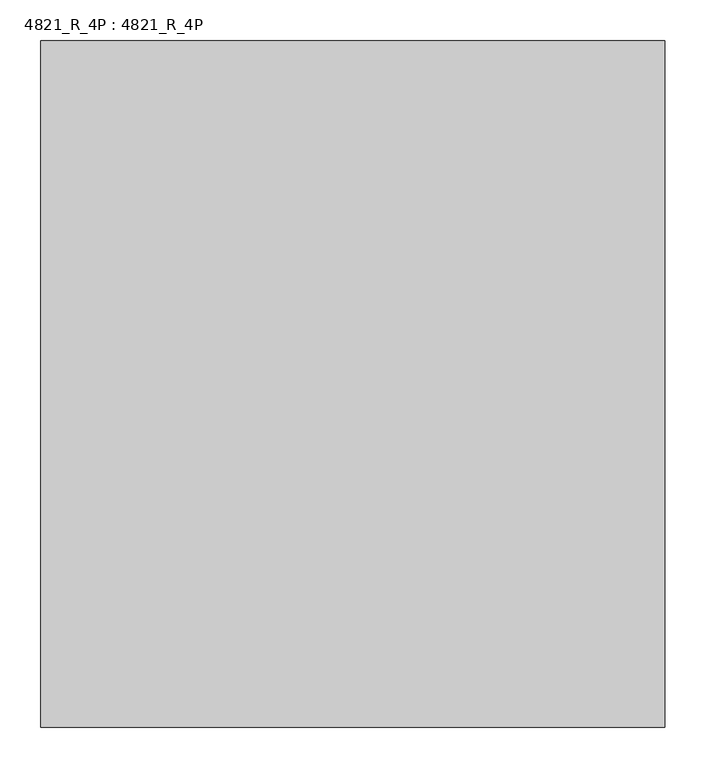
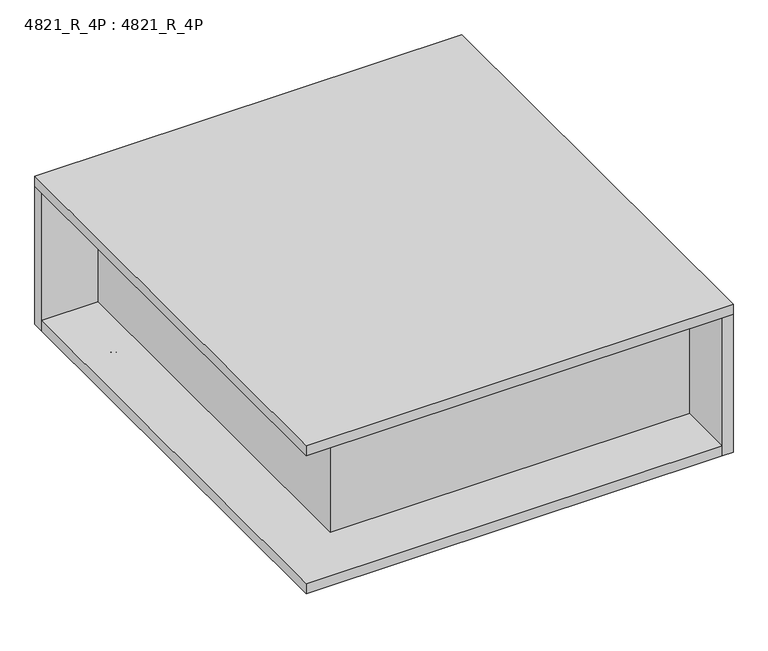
"""IFC4 building model written with IfcOpenShell, lengths in millimetres: furniture geometry, 4821_R_4P : 4821_R_4P."""

from ifc_helpers import new_model, si_unit, point, frame, frame_2d, origin, place, context, project, spatial, polyline, circle_curve, ellipse_curve, trimmed, segment, composite_curve, outline, extrude, source, transform, mapped, element, save
from ifc_brep_helpers import plane_surface, cylinder_surface, revolved_surface, advanced_brep


def furniture_4821_r_4p_4821_r_4p_70f06d25(model_context):
    return source(origin(), model_context, "Body", "SolidModel", [
        extrude(outline(composite_curve([segment(trimmed(circle_curve(frame_2d((-155.575, -136.525)), 1.905), [point((-155.575, -138.43))], [point((-157.48, -136.525))], False, "CARTESIAN"), True, "CONTINUOUS"), segment(polyline([(-157.48, -136.525), (-157.48, -41.275)]), True, "CONTINUOUS"), segment(trimmed(circle_curve(frame_2d((-155.575, -41.275)), 1.905), [point((-157.48, -41.275))], [point((-155.575, -39.37))], False, "CARTESIAN"), True, "CONTINUOUS"), segment(polyline([(-155.575, -39.37), (-60.325, -39.37)]), True, "CONTINUOUS"), segment(trimmed(circle_curve(frame_2d((-60.325, -41.275)), 1.905), [point((-60.325, -39.37))], [point((-58.42, -41.275))], False, "CARTESIAN"), True, "CONTINUOUS"), segment(polyline([(-58.42, -41.275), (-58.42, -136.525)]), True, "CONTINUOUS"), segment(trimmed(circle_curve(frame_2d((-60.325, -136.525)), 1.905), [point((-58.42, -136.525))], [point((-60.325, -138.43))], False, "CARTESIAN"), True, "CONTINUOUS"), segment(polyline([(-60.325, -138.43), (-155.575, -138.43)]), True, "CONTINUOUS")], self_intersect=False)), frame((0.0, 0.0, 9.8425), z_axis=(0.0, 0.0, 1.0), x_axis=(1.0, 0.0, 0.0)), (0.0, 0.0, 1.0), 1.27),
        advanced_brep(
        [(-118.1021334, -88.9, 0.0), (-97.7978666, -88.9, 0.0), (-107.95, -88.9, 0.0), (-118.4275, -88.9, 5.08), (-97.4725, -88.9, 5.08), (-118.4275, -88.9, 9.0481974), (-97.4725, -88.9, 9.0481974), (-117.6331974, -88.9, 9.8425), (-98.2668026, -88.9, 9.8425), (-107.95, -88.9, 9.8425)],
        [
            (0, 1, circle_curve(frame((-107.95, -88.9, 0.0), z_axis=(0.0, 0.0, -1.0), x_axis=(1.0, 0.0, 0.0)), 10.1521334)),
            (1, 2),
            (2, 0),
            (1, 0, circle_curve(frame((-107.95, -88.9, 0.0), z_axis=(0.0, 0.0, -1.0), x_axis=(1.0, 0.0, 0.0)), 10.1521334)),
            (3, 4, circle_curve(frame((-107.95, -88.9, 5.08), z_axis=(0.0, 0.0, -1.0), x_axis=(1.0, 0.0, 0.0)), 10.4775)),
            (4, 1, circle_curve(frame((-97.7978666, -88.9, 2.5504196), z_axis=(0.0, 1.0, 0.0), x_axis=(1.0, 0.0, 0.0)), 2.5504196)),
            (0, 3, circle_curve(frame((-118.1021334, -88.9, 2.5504196), z_axis=(0.0, 1.0, 0.0), x_axis=(-1.0, 0.0, 0.0)), 2.5504196)),
            (4, 3, circle_curve(frame((-107.95, -88.9, 5.08), z_axis=(0.0, 0.0, -1.0), x_axis=(1.0, 0.0, 0.0)), 10.4775)),
            (5, 6, circle_curve(frame((-107.95, -88.9, 9.0481974), z_axis=(0.0, 0.0, -1.0), x_axis=(1.0, 0.0, 0.0)), 10.4775)),
            (6, 4),
            (3, 5),
            (6, 5, circle_curve(frame((-107.95, -88.9, 9.0481974), z_axis=(0.0, 0.0, -1.0), x_axis=(1.0, 0.0, 0.0)), 10.4775)),
            (7, 8, circle_curve(frame((-107.95, -88.9, 9.8425), z_axis=(0.0, 0.0, -1.0), x_axis=(1.0, 0.0, 0.0)), 9.6831974)),
            (8, 6, circle_curve(frame((-98.2668026, -88.9, 9.0481974), z_axis=(0.0, 1.0, 0.0), x_axis=(1.0, 0.0, 0.0)), 0.7943026)),
            (5, 7, circle_curve(frame((-117.6331974, -88.9, 9.0481974), z_axis=(0.0, 1.0, 0.0), x_axis=(-1.0, 0.0, 0.0)), 0.7943026)),
            (8, 7, circle_curve(frame((-107.95, -88.9, 9.8425), z_axis=(0.0, 0.0, -1.0), x_axis=(1.0, 0.0, 0.0)), 9.6831974)),
            (9, 8),
            (7, 9),
        ],
        [
            plane_surface(frame((-107.95, -88.9, 0.0), z_axis=(0.0, 0.0, -1.0), x_axis=(1.0, 0.0, 0.0))),
            revolved_surface(trimmed(ellipse_curve(frame((-97.7978666, -88.9, 2.5504196), z_axis=(0.0, -1.0, 0.0), x_axis=(1.0, 0.0, 0.0)), 2.5504196, 2.5504196), [point((-97.7978666, -88.9, 0.0))], [point((-97.4725, -88.9, 5.08))], True, "CARTESIAN"), (-107.95, -88.9, 9.8425), (0.0, 0.0, 1.0)),
            cylinder_surface(frame((-107.95, -88.9, 9.8425), z_axis=(0.0, 0.0, 1.0), x_axis=(1.0, 0.0, 0.0)), 10.4775),
            revolved_surface(trimmed(ellipse_curve(frame((-98.2668026, -88.9, 9.0481974), z_axis=(0.0, -1.0, 0.0), x_axis=(1.0, 0.0, 0.0)), 0.7943026, 0.7943026), [point((-97.4725, -88.9, 9.0481974))], [point((-98.2668026, -88.9, 9.8425))], True, "CARTESIAN"), (-107.95, -88.9, 9.8425), (0.0, 0.0, 1.0)),
            plane_surface(frame((-107.95, -88.9, 9.8425), z_axis=(0.0, 0.0, 1.0), x_axis=(1.0, 0.0, 0.0))),
        ],
        [
            (0, [[1, 2, 3]]),
            (0, [[4, -3, -2]]),
            (1, [[5, 6, -1, 7]]),
            (1, [[8, -7, -4, -6]]),
            (2, [[9, 10, -5, 11]]),
            (2, [[12, -11, -8, -10]]),
            (3, [[13, 14, -9, 15]]),
            (3, [[16, -15, -12, -14]]),
            (4, [[17, -13, 18]]),
            (4, [[-18, -16, -17]]),
        ],
    ),
        advanced_brep(
        [(-625.475, -38.1, 41.5925), (-720.725, -38.1, 41.5925), (-723.9, -41.275, 41.5925), (-723.9, -136.525, 41.5925), (-720.725, -139.7, 41.5925), (-625.475, -139.7, 41.5925), (-622.3, -136.525, 41.5925), (-622.3, -41.275, 41.5925), (-722.63, -41.275, 11.1125), (-720.725, -39.37, 11.1125), (-625.475, -39.37, 11.1125), (-623.57, -41.275, 11.1125), (-623.57, -136.525, 11.1125), (-625.475, -138.43, 11.1125), (-720.725, -138.43, 11.1125), (-722.63, -136.525, 11.1125), (-625.475, -38.1, 11.1125), (-720.725, -38.1, 11.1125), (-723.9, -41.275, 11.1125), (-723.9, -136.525, 11.1125), (-720.725, -139.7, 11.1125), (-625.475, -139.7, 11.1125), (-622.3, -136.525, 11.1125), (-622.3, -41.275, 11.1125), (-720.725, -39.37, 9.8425), (-722.63, -41.275, 9.8425), (-625.475, -39.37, 9.8425), (-623.57, -41.275, 9.8425), (-623.57, -136.525, 9.8425), (-625.475, -138.43, 9.8425), (-720.725, -138.43, 9.8425), (-722.63, -136.525, 9.8425)],
        [
            (0, 1),
            (1, 2, circle_curve(frame((-720.725, -41.275, 41.5925), z_axis=(0.0, 0.0, 1.0), x_axis=(1.0, 0.0, 0.0)), 3.175)),
            (2, 3),
            (3, 4, circle_curve(frame((-720.725, -136.525, 41.5925), z_axis=(0.0, 0.0, 1.0), x_axis=(1.0, 0.0, 0.0)), 3.175)),
            (4, 5),
            (5, 6, circle_curve(frame((-625.475, -136.525, 41.5925), z_axis=(0.0, 0.0, 1.0), x_axis=(1.0, 0.0, 0.0)), 3.175)),
            (6, 7),
            (7, 0, circle_curve(frame((-625.475, -41.275, 41.5925), z_axis=(0.0, 0.0, 1.0), x_axis=(1.0, 0.0, 0.0)), 3.175)),
            (8, 9, circle_curve(frame((-720.725, -41.275, 11.1125), z_axis=(0.0, 0.0, -1.0), x_axis=(-1.0, 0.0, 0.0)), 1.905)),
            (9, 10),
            (10, 11, circle_curve(frame((-625.475, -41.275, 11.1125), z_axis=(0.0, 0.0, -1.0), x_axis=(0.0, 1.0, 0.0)), 1.905)),
            (11, 12),
            (12, 13, circle_curve(frame((-625.475, -136.525, 11.1125), z_axis=(0.0, 0.0, -1.0), x_axis=(1.0, 0.0, 0.0)), 1.905)),
            (13, 14),
            (14, 15, circle_curve(frame((-720.725, -136.525, 11.1125), z_axis=(0.0, 0.0, -1.0), x_axis=(0.0, -1.0, 0.0)), 1.905)),
            (15, 8),
            (0, 16),
            (16, 17),
            (17, 1),
            (17, 18, circle_curve(frame((-720.725, -41.275, 11.1125), z_axis=(0.0, 0.0, 1.0), x_axis=(1.0, 0.0, 0.0)), 3.175)),
            (18, 2),
            (18, 19),
            (19, 3),
            (19, 20, circle_curve(frame((-720.725, -136.525, 11.1125), z_axis=(0.0, 0.0, 1.0), x_axis=(1.0, 0.0, 0.0)), 3.175)),
            (20, 4),
            (20, 21),
            (21, 5),
            (21, 22, circle_curve(frame((-625.475, -136.525, 11.1125), z_axis=(0.0, 0.0, 1.0), x_axis=(1.0, 0.0, 0.0)), 3.175)),
            (22, 6),
            (22, 23),
            (23, 7),
            (23, 16, circle_curve(frame((-625.475, -41.275, 11.1125), z_axis=(0.0, 0.0, 1.0), x_axis=(1.0, 0.0, 0.0)), 3.175)),
            (24, 25, circle_curve(frame((-720.725, -41.275, 9.8425), z_axis=(0.0, 0.0, 1.0), x_axis=(-1.0, 0.0, 0.0)), 1.905)),
            (25, 18, circle_curve(frame((-722.63, -41.275, 11.1125), z_axis=(0.0, 1.0, 0.0), x_axis=(1.0, 0.0, 0.0)), 1.27)),
            (17, 24, circle_curve(frame((-720.725, -39.37, 11.1125), z_axis=(-1.0, 0.0, 0.0), x_axis=(0.0, -1.0, 0.0)), 1.27)),
            (16, 26, circle_curve(frame((-625.475, -39.37, 11.1125), z_axis=(-1.0, 0.0, 0.0), x_axis=(0.0, -1.0, 0.0)), 1.27)),
            (26, 24),
            (23, 27, circle_curve(frame((-623.57, -41.275, 11.1125), z_axis=(0.0, 1.0, 0.0), x_axis=(-1.0, 0.0, 0.0)), 1.27)),
            (27, 26, circle_curve(frame((-625.475, -41.275, 9.8425), z_axis=(0.0, 0.0, 1.0), x_axis=(0.0, 1.0, 0.0)), 1.905)),
            (22, 28, circle_curve(frame((-623.57, -136.525, 11.1125), z_axis=(0.0, 1.0, 0.0), x_axis=(-1.0, 0.0, 0.0)), 1.27)),
            (28, 27),
            (21, 29, circle_curve(frame((-625.475, -138.43, 11.1125), z_axis=(1.0, 0.0, 0.0), x_axis=(0.0, 1.0, 0.0)), 1.27)),
            (29, 28, circle_curve(frame((-625.475, -136.525, 9.8425), z_axis=(0.0, 0.0, 1.0), x_axis=(1.0, 0.0, 0.0)), 1.905)),
            (20, 30, circle_curve(frame((-720.725, -138.43, 11.1125), z_axis=(1.0, 0.0, 0.0), x_axis=(0.0, 1.0, 0.0)), 1.27)),
            (30, 29),
            (19, 31, circle_curve(frame((-722.63, -136.525, 11.1125), z_axis=(0.0, -1.0, 0.0), x_axis=(1.0, 0.0, 0.0)), 1.27)),
            (31, 30, circle_curve(frame((-720.725, -136.525, 9.8425), z_axis=(0.0, 0.0, 1.0), x_axis=(0.0, -1.0, 0.0)), 1.905)),
            (25, 31),
            (24, 9),
            (8, 25),
            (26, 10),
            (27, 11),
            (28, 12),
            (29, 13),
            (30, 14),
            (31, 15),
        ],
        [
            plane_surface(frame((-720.725, -38.1, 41.5925), z_axis=(0.0, 0.0, 1.0), x_axis=(-1.0, 0.0, 0.0))),
            plane_surface(frame((-720.725, -38.1, 11.1125), z_axis=(0.0, 0.0, -1.0), x_axis=(1.0, 0.0, 0.0))),
            plane_surface(frame((-625.475, -38.1, 41.5925), z_axis=(0.0, 1.0, 0.0), x_axis=(0.0, 0.0, -1.0))),
            cylinder_surface(frame((-720.725, -41.275, 11.1125), z_axis=(0.0, 0.0, 1.0), x_axis=(1.0, 0.0, 0.0)), 3.175),
            plane_surface(frame((-723.9, -41.275, 41.5925), z_axis=(-1.0, 0.0, 0.0), x_axis=(0.0, 0.0, -1.0))),
            cylinder_surface(frame((-720.725, -136.525, 11.1125), z_axis=(0.0, 0.0, 1.0), x_axis=(1.0, 0.0, 0.0)), 3.175),
            plane_surface(frame((-720.725, -139.7, 41.5925), z_axis=(0.0, -1.0, 0.0), x_axis=(0.0, 0.0, -1.0))),
            cylinder_surface(frame((-625.475, -136.525, 11.1125), z_axis=(0.0, 0.0, 1.0), x_axis=(1.0, 0.0, 0.0)), 3.175),
            plane_surface(frame((-622.3, -136.525, 41.5925), z_axis=(1.0, 0.0, 0.0), x_axis=(0.0, 0.0, -1.0))),
            cylinder_surface(frame((-625.475, -41.275, 11.1125), z_axis=(0.0, 0.0, 1.0), x_axis=(1.0, 0.0, 0.0)), 3.175),
            revolved_surface(trimmed(ellipse_curve(frame((-722.63, -41.275, 11.1125), z_axis=(0.0, -1.0, 0.0), x_axis=(1.0, 0.0, 0.0)), 1.27, 1.27), [point((-723.9, -41.275, 11.1125))], [point((-722.63, -41.275, 9.8425))], True, "CARTESIAN"), (-720.725, -41.275, 11.1125), (0.0, 0.0, -1.0)),
            cylinder_surface(frame((-720.725, -39.37, 11.1125), z_axis=(-1.0, 0.0, 0.0), x_axis=(0.0, -1.0, 0.0)), 1.27),
            revolved_surface(trimmed(ellipse_curve(frame((-625.475, -39.37, 11.1125), z_axis=(-1.0, 0.0, 0.0), x_axis=(0.0, -1.0, 0.0)), 1.27, 1.27), [point((-625.475, -38.1, 11.1125))], [point((-625.475, -39.37, 9.8425))], True, "CARTESIAN"), (-625.475, -41.275, 11.1125), (0.0, 0.0, -1.0)),
            cylinder_surface(frame((-623.57, -41.275, 11.1125), z_axis=(0.0, 1.0, 0.0), x_axis=(-1.0, 0.0, 0.0)), 1.27),
            revolved_surface(trimmed(ellipse_curve(frame((-623.57, -136.525, 11.1125), z_axis=(0.0, 1.0, 0.0), x_axis=(-1.0, 0.0, 0.0)), 1.27, 1.27), [point((-622.3, -136.525, 11.1125))], [point((-623.57, -136.525, 9.8425))], True, "CARTESIAN"), (-625.475, -136.525, 11.1125), (0.0, 0.0, -1.0)),
            cylinder_surface(frame((-625.475, -138.43, 11.1125), z_axis=(1.0, 0.0, 0.0), x_axis=(0.0, 1.0, 0.0)), 1.27),
            revolved_surface(trimmed(ellipse_curve(frame((-720.725, -138.43, 11.1125), z_axis=(1.0, 0.0, 0.0), x_axis=(0.0, 1.0, 0.0)), 1.27, 1.27), [point((-720.725, -139.7, 11.1125))], [point((-720.725, -138.43, 9.8425))], True, "CARTESIAN"), (-720.725, -136.525, 11.1125), (0.0, 0.0, -1.0)),
            cylinder_surface(frame((-722.63, -136.525, 11.1125), z_axis=(0.0, -1.0, 0.0), x_axis=(1.0, 0.0, 0.0)), 1.27),
            revolved_surface(polyline([(-722.63, -41.275, 9.8425), (-722.63, -41.275, 11.1125)]), (-720.725, -41.275, 11.1125), (0.0, 0.0, -1.0)),
            plane_surface(frame((-720.725, -39.37, 9.8425), z_axis=(0.0, -1.0, 0.0), x_axis=(1.0, 0.0, 0.0))),
            revolved_surface(polyline([(-625.475, -39.37, 9.8425), (-625.475, -39.37, 11.1125)]), (-625.475, -41.275, 11.1125), (0.0, 0.0, -1.0)),
            plane_surface(frame((-623.57, -41.275, 9.8425), z_axis=(-1.0, 0.0, 0.0), x_axis=(0.0, -1.0, 0.0))),
            revolved_surface(polyline([(-623.57, -136.525, 9.8425), (-623.57, -136.525, 11.1125)]), (-625.475, -136.525, 11.1125), (0.0, 0.0, -1.0)),
            plane_surface(frame((-625.475, -138.43, 9.8425), z_axis=(0.0, 1.0, 0.0), x_axis=(-1.0, 0.0, 0.0))),
            revolved_surface(polyline([(-720.725, -138.43, 9.8425), (-720.725, -138.43, 11.1125)]), (-720.725, -136.525, 11.1125), (0.0, 0.0, -1.0)),
            plane_surface(frame((-722.63, -136.525, 9.8425), z_axis=(1.0, 0.0, 0.0), x_axis=(0.0, 1.0, 0.0))),
        ],
        [
            (0, [[1, 2, 3, 4, 5, 6, 7, 8]]),
            (1, [[9, 10, 11, 12, 13, 14, 15, 16]]),
            (2, [[-1, 17, 18, 19]]),
            (3, [[-2, -19, 20, 21]]),
            (4, [[-3, -21, 22, 23]]),
            (5, [[-4, -23, 24, 25]]),
            (6, [[-5, -25, 26, 27]]),
            (7, [[-6, -27, 28, 29]]),
            (8, [[-7, -29, 30, 31]]),
            (9, [[-8, -31, 32, -17]]),
            (10, [[33, 34, -20, 35]]),
            (11, [[-35, -18, 36, 37]]),
            (12, [[-36, -32, 38, 39]]),
            (13, [[-38, -30, 40, 41]]),
            (14, [[-40, -28, 42, 43]]),
            (15, [[-42, -26, 44, 45]]),
            (16, [[-44, -24, 46, 47]]),
            (17, [[-34, 48, -46, -22]]),
            (18, [[-33, 49, -9, 50]]),
            (19, [[-37, 51, -10, -49]]),
            (20, [[-39, 52, -11, -51]]),
            (21, [[-41, 53, -12, -52]]),
            (22, [[-43, 54, -13, -53]]),
            (23, [[-45, 55, -14, -54]]),
            (24, [[-47, 56, -15, -55]]),
            (25, [[-48, -50, -16, -56]]),
        ],
    ),
        extrude(outline(composite_curve([segment(trimmed(circle_curve(frame_2d((-720.725, -136.525)), 1.905), [point((-720.725, -138.43))], [point((-722.63, -136.525))], False, "CARTESIAN"), True, "CONTINUOUS"), segment(polyline([(-722.63, -136.525), (-722.63, -41.275)]), True, "CONTINUOUS"), segment(trimmed(circle_curve(frame_2d((-720.725, -41.275)), 1.905), [point((-722.63, -41.275))], [point((-720.725, -39.37))], False, "CARTESIAN"), True, "CONTINUOUS"), segment(polyline([(-720.725, -39.37), (-625.475, -39.37)]), True, "CONTINUOUS"), segment(trimmed(circle_curve(frame_2d((-625.475, -41.275)), 1.905), [point((-625.475, -39.37))], [point((-623.57, -41.275))], False, "CARTESIAN"), True, "CONTINUOUS"), segment(polyline([(-623.57, -41.275), (-623.57, -136.525)]), True, "CONTINUOUS"), segment(trimmed(circle_curve(frame_2d((-625.475, -136.525)), 1.905), [point((-623.57, -136.525))], [point((-625.475, -138.43))], False, "CARTESIAN"), True, "CONTINUOUS"), segment(polyline([(-625.475, -138.43), (-720.725, -138.43)]), True, "CONTINUOUS")], self_intersect=False)), frame((0.0, 0.0, 9.8425), z_axis=(0.0, 0.0, 1.0), x_axis=(1.0, 0.0, 0.0)), (0.0, 0.0, 1.0), 1.27),
        advanced_brep(
        [(-683.2521334, -88.9, 0.0), (-662.9478666, -88.9, 0.0), (-673.1, -88.9, 0.0), (-683.5775, -88.9, 5.08), (-662.6225, -88.9, 5.08), (-683.5775, -88.9, 9.0481974), (-662.6225, -88.9, 9.0481974), (-682.7831974, -88.9, 9.8425), (-663.4168026, -88.9, 9.8425), (-673.1, -88.9, 9.8425)],
        [
            (0, 1, circle_curve(frame((-673.1, -88.9, 0.0), z_axis=(0.0, 0.0, -1.0), x_axis=(1.0, 0.0, 0.0)), 10.1521334)),
            (1, 2),
            (2, 0),
            (1, 0, circle_curve(frame((-673.1, -88.9, 0.0), z_axis=(0.0, 0.0, -1.0), x_axis=(1.0, 0.0, 0.0)), 10.1521334)),
            (3, 4, circle_curve(frame((-673.1, -88.9, 5.08), z_axis=(0.0, 0.0, -1.0), x_axis=(1.0, 0.0, 0.0)), 10.4775)),
            (4, 1, circle_curve(frame((-662.9478666, -88.9, 2.5504196), z_axis=(0.0, 1.0, 0.0), x_axis=(1.0, 0.0, 0.0)), 2.5504196)),
            (0, 3, circle_curve(frame((-683.2521334, -88.9, 2.5504196), z_axis=(0.0, 1.0, 0.0), x_axis=(-1.0, 0.0, 0.0)), 2.5504196)),
            (4, 3, circle_curve(frame((-673.1, -88.9, 5.08), z_axis=(0.0, 0.0, -1.0), x_axis=(1.0, 0.0, 0.0)), 10.4775)),
            (5, 6, circle_curve(frame((-673.1, -88.9, 9.0481974), z_axis=(0.0, 0.0, -1.0), x_axis=(1.0, 0.0, 0.0)), 10.4775)),
            (6, 4),
            (3, 5),
            (6, 5, circle_curve(frame((-673.1, -88.9, 9.0481974), z_axis=(0.0, 0.0, -1.0), x_axis=(1.0, 0.0, 0.0)), 10.4775)),
            (7, 8, circle_curve(frame((-673.1, -88.9, 9.8425), z_axis=(0.0, 0.0, -1.0), x_axis=(1.0, 0.0, 0.0)), 9.6831974)),
            (8, 6, circle_curve(frame((-663.4168026, -88.9, 9.0481974), z_axis=(0.0, 1.0, 0.0), x_axis=(1.0, 0.0, 0.0)), 0.7943026)),
            (5, 7, circle_curve(frame((-682.7831974, -88.9, 9.0481974), z_axis=(0.0, 1.0, 0.0), x_axis=(-1.0, 0.0, 0.0)), 0.7943026)),
            (8, 7, circle_curve(frame((-673.1, -88.9, 9.8425), z_axis=(0.0, 0.0, -1.0), x_axis=(1.0, 0.0, 0.0)), 9.6831974)),
            (9, 8),
            (7, 9),
        ],
        [
            plane_surface(frame((-673.1, -88.9, 0.0), z_axis=(0.0, 0.0, -1.0), x_axis=(1.0, 0.0, 0.0))),
            revolved_surface(trimmed(ellipse_curve(frame((-662.9478666, -88.9, 2.5504196), z_axis=(0.0, -1.0, 0.0), x_axis=(1.0, 0.0, 0.0)), 2.5504196, 2.5504196), [point((-662.9478666, -88.9, 0.0))], [point((-662.6225, -88.9, 5.08))], True, "CARTESIAN"), (-673.1, -88.9, 9.8425), (0.0, 0.0, 1.0)),
            cylinder_surface(frame((-673.1, -88.9, 9.8425), z_axis=(0.0, 0.0, 1.0), x_axis=(1.0, 0.0, 0.0)), 10.4775),
            revolved_surface(trimmed(ellipse_curve(frame((-663.4168026, -88.9, 9.0481974), z_axis=(0.0, -1.0, 0.0), x_axis=(1.0, 0.0, 0.0)), 0.7943026, 0.7943026), [point((-662.6225, -88.9, 9.0481974))], [point((-663.4168026, -88.9, 9.8425))], True, "CARTESIAN"), (-673.1, -88.9, 9.8425), (0.0, 0.0, 1.0)),
            plane_surface(frame((-673.1, -88.9, 9.8425), z_axis=(0.0, 0.0, 1.0), x_axis=(1.0, 0.0, 0.0))),
        ],
        [
            (0, [[1, 2, 3]]),
            (0, [[4, -3, -2]]),
            (1, [[5, 6, -1, 7]]),
            (1, [[8, -7, -4, -6]]),
            (2, [[9, 10, -5, 11]]),
            (2, [[12, -11, -8, -10]]),
            (3, [[13, 14, -9, 15]]),
            (3, [[16, -15, -12, -14]]),
            (4, [[17, -13, 18]]),
            (4, [[-18, -16, -17]]),
        ],
    ),
        extrude(outline(polyline([(-19.05, -736.6), (-660.4, -736.6), (-660.4, -19.05), (-19.05, -19.05), (-19.05, -736.6)])), frame((0.0, 0.0, 60.6425), z_axis=(0.0, 0.0, 1.0), x_axis=(1.0, 0.0, 0.0)), (0.0, 0.0, 1.0), 241.3),
        extrude(outline(polyline([(-762.0, 0.0), (0.0, 0.0), (0.0, -838.2), (-762.0, -838.2), (-762.0, 0.0)])), frame((0.0, 0.0, 301.9425), z_axis=(0.0, 0.0, 1.0), x_axis=(1.0, 0.0, 0.0)), (0.0, 0.0, 1.0), 19.05),
        extrude(outline(polyline([(0.0, 0.0), (0.0, -19.05), (-762.0, -19.05), (-762.0, 0.0), (0.0, 0.0)])), frame((0.0, 0.0, 41.5925), z_axis=(0.0, 0.0, 1.0), x_axis=(1.0, 0.0, 0.0)), (0.0, 0.0, 1.0), 260.35),
        extrude(outline(polyline([(0.0, -838.2), (-19.05, -838.2), (-19.05, -19.05), (0.0, -19.05), (0.0, -838.2)])), frame((0.0, 0.0, 41.5925), z_axis=(0.0, 0.0, 1.0), x_axis=(1.0, 0.0, 0.0)), (0.0, 0.0, 1.0), 260.35),
        extrude(outline(polyline([(-19.05, -19.05), (-19.05, -838.2), (-762.0, -838.2), (-762.0, -19.05), (-19.05, -19.05)])), frame((0.0, 0.0, 41.5925), z_axis=(0.0, 0.0, 1.0), x_axis=(1.0, 0.0, 0.0)), (0.0, 0.0, 1.0), 19.05),
    ])


if __name__ == "__main__":
    model = new_model("IFC4")
    model_context = context("Model", 3, world=origin())
    ifc_project = project(units=[si_unit("LENGTHUNIT", "METRE", prefix="MILLI")], contexts=[model_context])
    site = spatial("IfcSite", under=ifc_project)
    building = spatial("IfcBuilding", under=site)
    placement = place(None, origin())
    furniture_4821_r_4p_4821_r_4p_shape = furniture_4821_r_4p_4821_r_4p_70f06d25(model_context)
    element("IfcFurniture", 1, ObjectType="4821_R_4P : 4821_R_4P", at=placement, inside=building, context=model_context, shape_type="MappedRepresentation", body=[
        mapped(furniture_4821_r_4p_4821_r_4p_shape, transform((0.0, 0.0, 0.0), x_axis=(1.0, 0.0, 0.0), y_axis=(0.0, 1.0, 0.0), z_axis=(0.0, 0.0, 1.0))),
    ])
    save(model, "model.ifc")
